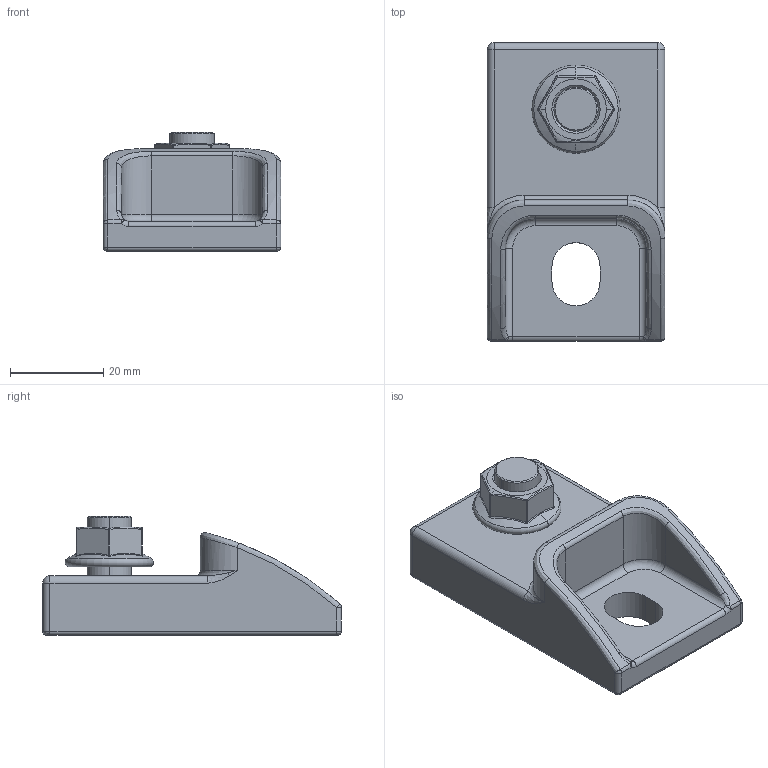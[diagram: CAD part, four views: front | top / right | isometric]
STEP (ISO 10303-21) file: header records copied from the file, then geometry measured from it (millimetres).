
FILE_DESCRIPTION((''),'2;1');
FILE_NAME('SCE-ELMFK4-50_ASM','2021-04-08T14:10:25',('Tony.Gonzales'),('SAGINAW CONTROL & ENGINEERING'),'CREO PARAMETRIC BY PTC INC, 2017260','CREO PARAMETRIC BY PTC INC, 2017260','');
FILE_SCHEMA(('AUTOMOTIVE_DESIGN { 1 0 10303 214 1 1 1 1 }'));
Length unit declared in the file: inch
Products named in the file (4): 111949; 110206; 100904; SCE-ELMFK4-50_ASM
Assembly tree (3 placements, depth 2):
  SCE-ELMFK4-50_ASM
    111949
    110206
    100904
Bounding box: 38.1 x 64.01 x 25.5 mm (x, y, z)
Volume: 27791.8 mm3; surface area: 11399.4 mm2
Topology: 3 solids, 3 shells, 213 faces, 505 edges, 304 vertices
Faces by surface type: plane 82, cylinder 60, bspline 30, torus 18, sphere 14, cone 8, extrusion 1
Entity records: 11583 total; most frequent: CARTESIAN_POINT 3728, DIRECTION 1034, ORIENTED_EDGE 1010, PRESENTATION_STYLE_ASSIGNMENT 591, STYLED_ITEM 591, EDGE_CURVE 505, CURVE_STYLE 452, AXIS2_PLACEMENT_3D 397
